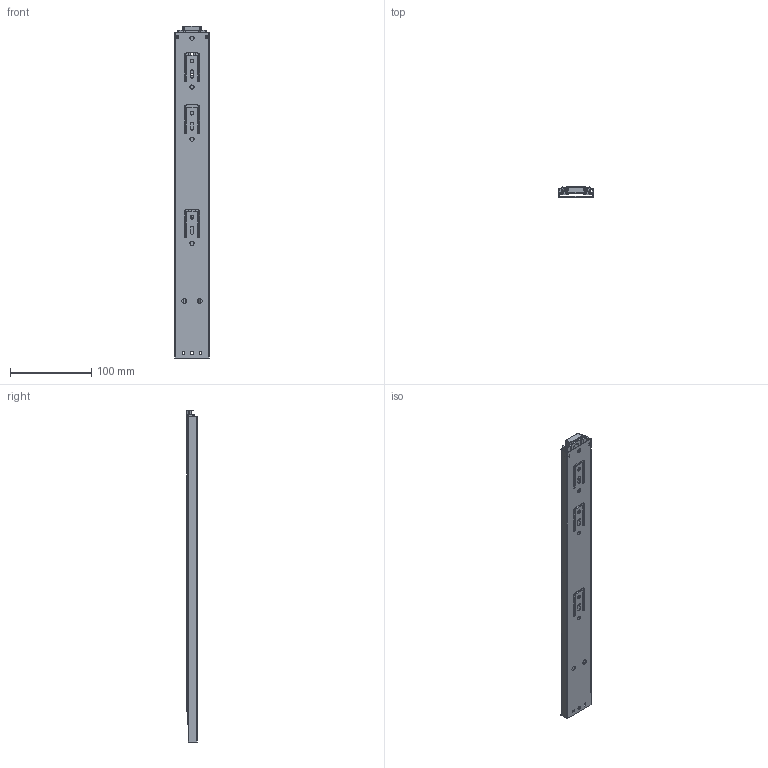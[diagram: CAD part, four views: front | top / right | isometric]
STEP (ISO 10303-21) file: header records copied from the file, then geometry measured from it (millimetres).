
FILE_DESCRIPTION(/* description */ (''),/* implementation_level */ '2;1');
FILE_NAME(/* name */ 'C:\Users\dmitruk\Documents\WORK\\X2\041D0410041F042004100412041B042F042E042904180415\X0\\Шариковые\Push to open\39194-400.stp',/* time_stamp */ '2020-07-27T14:02:07+03:00',/* author */ ('dmitruk'),/* organization */ (''),/* preprocessor_version */ 'ST-DEVELOPER v16.5',/* originating_system */ 'Autodesk Inventor 2017',/* authorisation */ '');
FILE_SCHEMA (('AUTOMOTIVE_DESIGN { 1 0 10303 214 3 1 1 }'));
Length unit declared in the file: millimetre
Products named in the file (5): 39194; нш400_1; 39194_12; нш400_3; 39194_2
Assembly tree (4 placements, depth 2):
  39194
    нш400_1
    39194_12
    нш400_3
    39194_2
Bounding box: 42 x 13 x 408 mm (x, y, z)
Volume: 63899 mm3; surface area: 124610.9 mm2
Topology: 4 solids, 4 shells, 701 faces, 2014 edges, 1319 vertices
Faces by surface type: plane 401, cylinder 252, sphere 48
Full cylindrical faces by diameter (mm): 4.5 x1, 4.8 x6, 5 x4, 6 x2, 8 x1
Entity records: 23522 total; most frequent: CARTESIAN_POINT 4269, DIRECTION 4019, ORIENTED_EDGE 4000, EDGE_CURVE 2000, LINE 1349, VECTOR 1349, AXIS2_PLACEMENT_3D 1335, VERTEX_POINT 1319
